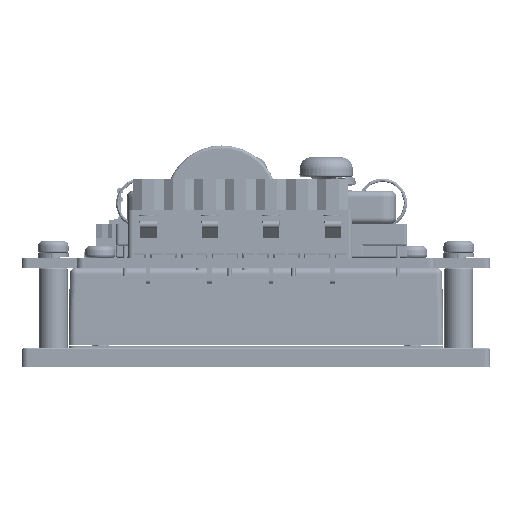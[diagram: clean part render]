
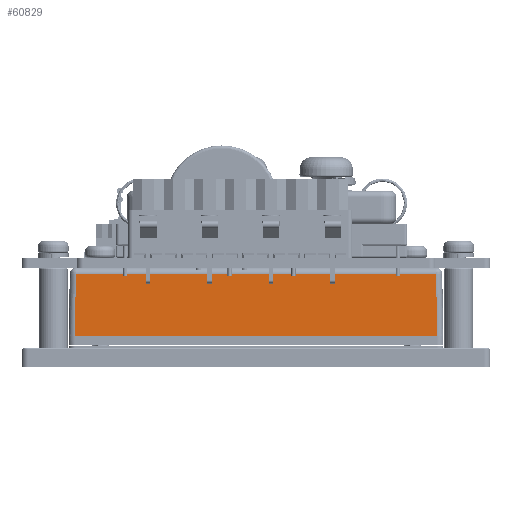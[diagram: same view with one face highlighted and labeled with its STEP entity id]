
A CAD part, left-side view. The second image highlights one B-rep face of the part: STEP entity #60829.
In plain terms, the highlighted planar face has unit normal (-1, 0, 0.018).
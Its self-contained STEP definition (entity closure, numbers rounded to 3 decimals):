
#2844 = CARTESIAN_POINT ( 'NONE',  ( -18.617, 44.705, -12.7 ) ) ;
#3963 = CARTESIAN_POINT ( 'NONE',  ( -18.617, -14.295, -12.7 ) ) ;
#7738 = EDGE_CURVE ( 'NONE', #151307, #184920, #55844, .T. ) ;
#8214 = ORIENTED_EDGE ( 'NONE', *, *, #68117, .T. ) ;
#15326 = DIRECTION ( 'NONE',  ( 0., -1., 0. ) ) ;
#21937 = DIRECTION ( 'NONE',  ( 0.017, 0.017, 1. ) ) ;
#24147 = CARTESIAN_POINT ( 'NONE',  ( -18.617, -15.295, -12.7 ) ) ;
#28259 = FACE_OUTER_BOUND ( 'NONE', #84095, .T. ) ;
#29197 = DIRECTION ( 'NONE',  ( 0.017, 0., 1. ) ) ;
#32492 = CARTESIAN_POINT ( 'NONE',  ( -17.617, -14.295, -12.7 ) ) ;
#37208 = CARTESIAN_POINT ( 'NONE',  ( -18.618, -14.295, -12.717 ) ) ;
#47658 = VERTEX_POINT ( 'NONE', #2844 ) ;
#55062 = PLANE ( 'NONE',  #128884 ) ;
#55844 = CIRCLE ( 'NONE', #58968, 1. ) ;
#56373 = CARTESIAN_POINT ( 'NONE',  ( -18.441, -14.119, -2.583 ) ) ;
#58968 = AXIS2_PLACEMENT_3D ( 'NONE', #32492, #146304, #15326 ) ;
#60829 = ADVANCED_FACE ( 'NONE', ( #28259 ), #55062, .T. ) ;
#66032 = VECTOR ( 'NONE', #21937, 1000. ) ;
#68117 = EDGE_CURVE ( 'NONE', #47658, #151307, #155144, .T. ) ;
#79820 = CARTESIAN_POINT ( 'NONE',  ( -18.617, -14.295, -12.7 ) ) ;
#82662 = DIRECTION ( 'NONE',  ( 0., 1., 0. ) ) ;
#84095 = EDGE_LOOP ( 'NONE', ( #8214, #155659, #92014, #168201, #188224 ) ) ;
#91222 = VERTEX_POINT ( 'NONE', #129143 ) ;
#92014 = ORIENTED_EDGE ( 'NONE', *, *, #146584, .T. ) ;
#98695 = DIRECTION ( 'NONE',  ( 0., -1., 0. ) ) ;
#110100 = VERTEX_POINT ( 'NONE', #56373 ) ;
#127784 = CARTESIAN_POINT ( 'NONE',  ( -18.617, -15.295, -12.7 ) ) ;
#128884 = AXIS2_PLACEMENT_3D ( 'NONE', #127784, #187968, #29197 ) ;
#129143 = CARTESIAN_POINT ( 'NONE',  ( -18.441, 44.529, -2.583 ) ) ;
#131492 = VECTOR ( 'NONE', #98695, 1000. ) ;
#138159 = CARTESIAN_POINT ( 'NONE',  ( -18.441, 45.511, -2.583 ) ) ;
#146304 = DIRECTION ( 'NONE',  ( 0., 0., 1. ) ) ;
#146584 = EDGE_CURVE ( 'NONE', #184920, #110100, #152939, .T. ) ;
#148410 = VECTOR ( 'NONE', #176676, 1000. ) ;
#150708 = EDGE_CURVE ( 'NONE', #91222, #47658, #175741, .T. ) ;
#151307 = VERTEX_POINT ( 'NONE', #79820 ) ;
#152939 = LINE ( 'NONE', #37208, #66032 ) ;
#155144 = LINE ( 'NONE', #24147, #131492 ) ;
#155659 = ORIENTED_EDGE ( 'NONE', *, *, #7738, .T. ) ;
#161390 = CARTESIAN_POINT ( 'NONE',  ( -18.599, 44.687, -11.653 ) ) ;
#162745 = EDGE_CURVE ( 'NONE', #110100, #91222, #169695, .T. ) ;
#168201 = ORIENTED_EDGE ( 'NONE', *, *, #162745, .T. ) ;
#169695 = LINE ( 'NONE', #138159, #188696 ) ;
#175741 = LINE ( 'NONE', #161390, #148410 ) ;
#176676 = DIRECTION ( 'NONE',  ( -0.017, 0.017, -1. ) ) ;
#184920 = VERTEX_POINT ( 'NONE', #3963 ) ;
#187968 = DIRECTION ( 'NONE',  ( -1., 0., 0.017 ) ) ;
#188224 = ORIENTED_EDGE ( 'NONE', *, *, #150708, .T. ) ;
#188696 = VECTOR ( 'NONE', #82662, 1000. ) ;
